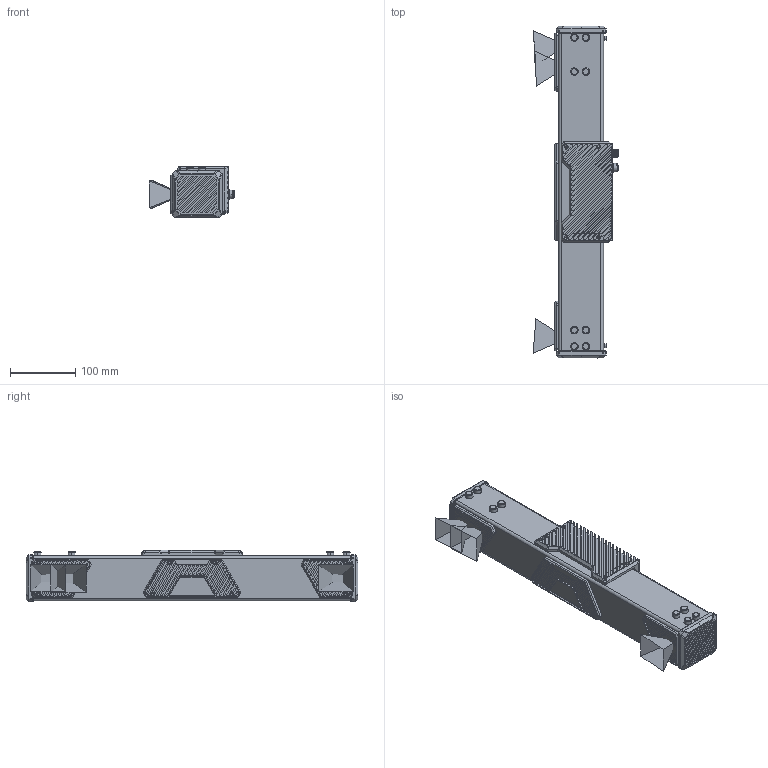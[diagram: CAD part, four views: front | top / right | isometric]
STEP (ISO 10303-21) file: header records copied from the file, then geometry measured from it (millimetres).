
FILE_DESCRIPTION((''),'2;1');
FILE_NAME('00-DLS1400P-V3_ASM_1_SW0001','2024-10-31T12:02:39',('guodanfeng'),(''),'CREO PARAMETRIC BY PTC INC, 2020044','CREO PARAMETRIC BY PTC INC, 2020044','');
FILE_SCHEMA(('AUTOMOTIVE_DESIGN { 1 0 10303 214 1 1 1 1 }'));
Products named in the file (1): 00-DLS1400P-V3_ASM_1_SW0001
Bounding box: 131.6 x 510.07 x 79.8 mm (x, y, z)
Surface area: 266807.3 mm2 (no closed solid volume)
Topology: 0 solids, 59 shells, 1916 faces, 6775 edges, 4822 vertices
Faces by surface type: plane 995, cylinder 681, cone 106, torus 48, bspline 46, extrusion 40
Entity records: 85639 total; most frequent: CARTESIAN_POINT 25085, DIRECTION 12259, ORIENTED_EDGE 11789, EDGE_CURVE 6755, VERTEX_POINT 4822, AXIS2_PLACEMENT_3D 4180, VECTOR 3899, LINE 3859
